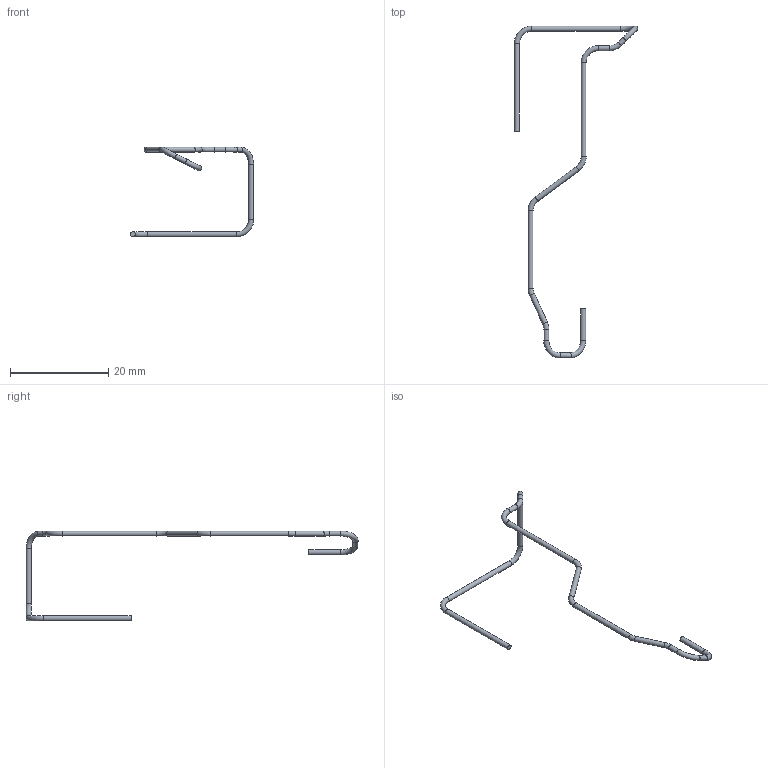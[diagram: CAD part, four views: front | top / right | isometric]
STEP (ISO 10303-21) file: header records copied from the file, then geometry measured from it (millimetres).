
FILE_DESCRIPTION(('Open CASCADE Model'),'2;1');
FILE_NAME('R36_J2_CK_PIGTAIL_2_ADAPTER_LIGAMENT_FINAL', '2026-09-15T15:04:57',('Author'),('Open CASCADE'), 'Open CASCADE STEP processor 7.9','build123d','Unknown');
FILE_SCHEMA(('AUTOMOTIVE_DESIGN { 1 0 10303 214 1 1 1 1 }'));
Length unit declared in the file: millimetre
Products named in the file (1): R36_J2_CK_PIGTAIL_2_ADAPTER_LIGAMENT_FINAL
Bounding box: 25.15 x 67.7 x 18.31 mm (x, y, z)
Volume: 132.3 mm3; surface area: 505.6 mm2
Topology: 1 solids, 1 shells, 25 faces, 47 edges, 24 vertices
Faces by surface type: cylinder 12, torus 11, plane 2
Full cylindrical faces by diameter (mm): 1.05 x12
Entity records: 1196 total; most frequent: CARTESIAN_POINT 236, DIRECTION 183, ORIENTED_EDGE 94, PCURVE 94, DEFINITIONAL_REPRESENTATION 94, AXIS2_PLACEMENT_3D 61, LINE 59, VECTOR 59
